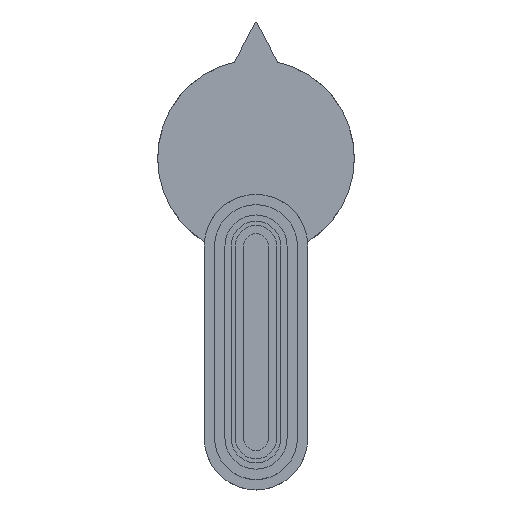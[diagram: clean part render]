
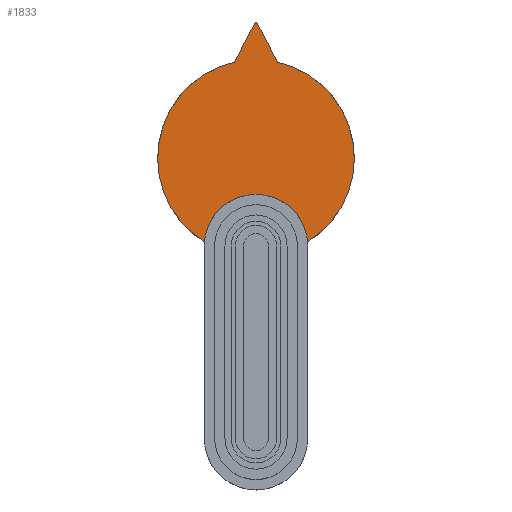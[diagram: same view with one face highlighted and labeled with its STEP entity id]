
A CAD part, top view. The second image highlights one B-rep face of the part: STEP entity #1833.
In plain terms, the highlighted planar face has unit normal (0, 0, 1).
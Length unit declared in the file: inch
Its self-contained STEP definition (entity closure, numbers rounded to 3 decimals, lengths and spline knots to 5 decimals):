
#491=CARTESIAN_POINT('',(0.,-0.2125,0.05));
#492=DIRECTION('',(0.,0.,1.));
#493=DIRECTION('',(0.997,0.082,0.));
#494=AXIS2_PLACEMENT_3D('',#491,#492,#493);
#496=CARTESIAN_POINT('',(0.,0.,0.05));
#497=DIRECTION('',(0.,0.,1.));
#498=DIRECTION('',(-0.221,0.975,0.));
#499=AXIS2_PLACEMENT_3D('',#496,#497,#498);
#501=DIRECTION('',(-0.466,-0.885,0.));
#502=VECTOR('',#501,0.10885);
#503=CARTESIAN_POINT('',(-0.00177,0.32793,0.05));
#504=LINE('',#503,#502);
#505=CARTESIAN_POINT('',(0.,0.327,0.05));
#506=DIRECTION('',(0.,0.,1.));
#507=DIRECTION('',(0.885,0.466,0.));
#508=AXIS2_PLACEMENT_3D('',#505,#506,#507);
#510=DIRECTION('',(-0.466,0.885,0.));
#511=VECTOR('',#510,0.10885);
#512=CARTESIAN_POINT('',(0.0525,0.23162,0.05));
#513=LINE('',#512,#511);
#514=CARTESIAN_POINT('',(0.,0.,0.05));
#515=DIRECTION('',(0.,0.,1.));
#516=DIRECTION('',(0.525,-0.851,0.));
#517=AXIS2_PLACEMENT_3D('',#514,#515,#516);
#1035=CARTESIAN_POINT('',(0.0525,0.23162,0.05));
#1036=CARTESIAN_POINT('',(0.00177,0.32793,0.05));
#1037=VERTEX_POINT('',#1035);
#1038=VERTEX_POINT('',#1036);
#1039=CARTESIAN_POINT('',(-0.00177,0.32793,0.05));
#1040=VERTEX_POINT('',#1039);
#1041=CARTESIAN_POINT('',(-0.0525,0.23162,0.05));
#1042=VERTEX_POINT('',#1041);
#1071=CARTESIAN_POINT('',(0.12458,-0.20221,0.05));
#1072=CARTESIAN_POINT('',(-0.12458,-0.20221,0.05));
#1073=VERTEX_POINT('',#1071);
#1074=VERTEX_POINT('',#1072);
#1817=CARTESIAN_POINT('',(0.,0.,0.05));
#1818=DIRECTION('',(0.,0.,1.));
#1819=DIRECTION('',(1.,0.,0.));
#1820=AXIS2_PLACEMENT_3D('',#1817,#1818,#1819);
#1821=PLANE('',#1820);
#1822=ORIENTED_EDGE('',*,*,#1802,.T.);
#1823=ORIENTED_EDGE('',*,*,#1771,.F.);
#1825=ORIENTED_EDGE('',*,*,#1824,.F.);
#1827=ORIENTED_EDGE('',*,*,#1826,.F.);
#1829=ORIENTED_EDGE('',*,*,#1828,.F.);
#1830=ORIENTED_EDGE('',*,*,#1764,.F.);
#1831=EDGE_LOOP('',(#1822,#1823,#1825,#1827,#1829,#1830));
#1832=FACE_OUTER_BOUND('',#1831,.F.);
#1833=ADVANCED_FACE('',(#1832),#1821,.T.);
#495=CIRCLE('',#494,0.125);
#500=CIRCLE('',#499,0.2375);
#509=CIRCLE('',#508,0.002);
#518=CIRCLE('',#517,0.2375);
#1764=EDGE_CURVE('',#1073,#1037,#518,.T.);
#1771=EDGE_CURVE('',#1042,#1074,#500,.T.);
#1802=EDGE_CURVE('',#1073,#1074,#495,.T.);
#1824=EDGE_CURVE('',#1040,#1042,#504,.T.);
#1826=EDGE_CURVE('',#1038,#1040,#509,.T.);
#1828=EDGE_CURVE('',#1037,#1038,#513,.T.);
